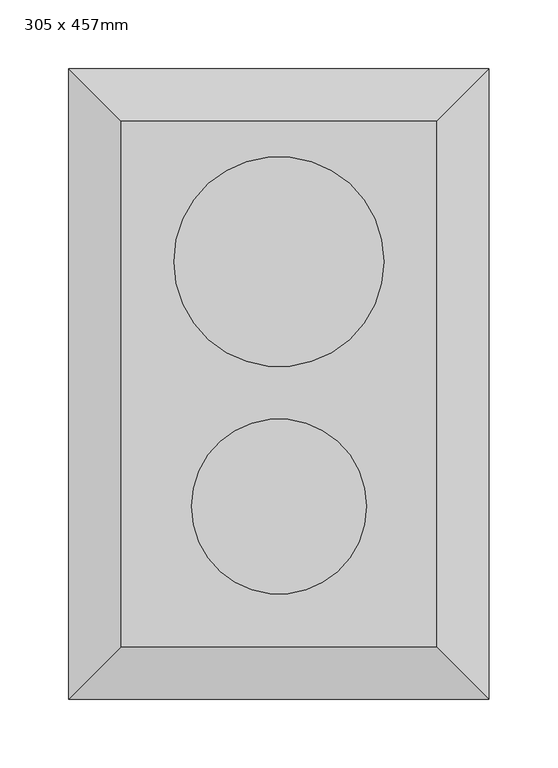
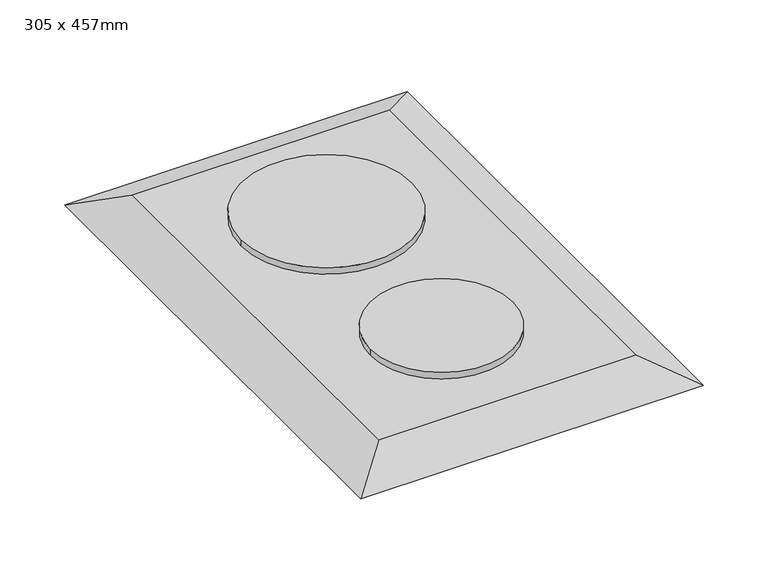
"""IFC4 building model written with IfcOpenShell, lengths in millimetres: proxy geometry, 炉灶面 - 2 套 : 305 x 457mm."""

from ifc_helpers import new_model, si_unit, point, frame, frame_2d, origin, place, context, project, spatial, circle_curve, trimmed, segment, composite_curve, outline, extrude, faceted_brep, source, transform, mapped, element, save


def proxy_305_x_457mm_75991893(model_context):
    return source(origin(), model_context, "Body", "SolidModel", [
        faceted_brep([(190.6, 220.6247956, 919.05), (-38.2, 220.6247956, 919.05), (-38.2, -160.1752044, 919.05), (190.6, -160.1752044, 919.05), (228.7, 258.7247956, 900.0), (228.7, -198.2752044, 900.0), (-76.3, -198.2752044, 900.0), (-76.3, 258.7247956, 900.0)], [[[0, 1, 2, 3]], [[4, 5, 6, 7]], [[4, 7, 1, 0]], [[7, 6, 2, 1]], [[6, 5, 3, 2]], [[5, 4, 0, 3]]]),
        extrude(outline(composite_curve([segment(trimmed(circle_curve(frame_2d((76.2, 119.0247956)), 76.2), [point((152.4, 119.0247956))], [point((0.0, 119.0247956))], False, "CARTESIAN"), True, "CONTINUOUS"), segment(trimmed(circle_curve(frame_2d((76.2, 119.0247956)), 76.2), [point((0.0, 119.0247956))], [point((152.4, 119.0247956))], False, "CARTESIAN"), True, "CONTINUOUS")], self_intersect=False)), frame((0.0, 0.0, 919.05), z_axis=(0.0, 0.0, 1.0), x_axis=(1.0, 0.0, 0.0)), (0.0, 0.0, 1.0), 6.35),
        extrude(outline(composite_curve([segment(trimmed(circle_curve(frame_2d((76.2, -58.5752044)), 63.5), [point((139.7, -58.5752044))], [point((12.7, -58.5752044))], False, "CARTESIAN"), True, "CONTINUOUS"), segment(trimmed(circle_curve(frame_2d((76.2, -58.5752044)), 63.5), [point((12.7, -58.5752044))], [point((139.7, -58.5752044))], False, "CARTESIAN"), True, "CONTINUOUS")], self_intersect=False)), frame((0.0, 0.0, 919.05), z_axis=(0.0, 0.0, 1.0), x_axis=(1.0, 0.0, 0.0)), (0.0, 0.0, 1.0), 6.35),
    ])


if __name__ == "__main__":
    model = new_model("IFC4")
    model_context = context("Model", 3, world=origin())
    ifc_project = project(units=[si_unit("LENGTHUNIT", "METRE", prefix="MILLI")], contexts=[model_context])
    site = spatial("IfcSite", under=ifc_project)
    building = spatial("IfcBuilding", under=site)
    placement = place(None, origin())
    proxy_305_x_457mm_shape = proxy_305_x_457mm_75991893(model_context)
    element("IfcBuildingElementProxy", 1, Name="炉灶面 - 2 套 : 305 x 457mm", ObjectType="炉灶面 - 2 套 : 305 x 457mm", at=placement, inside=building, context=model_context, shape_type="MappedRepresentation", body=[
        mapped(proxy_305_x_457mm_shape, transform((0.0, 0.0, 0.0), x_axis=(1.0, 0.0, 0.0), y_axis=(0.0, 1.0, 0.0), z_axis=(0.0, 0.0, 1.0))),
    ])
    save(model, "model.ifc")
